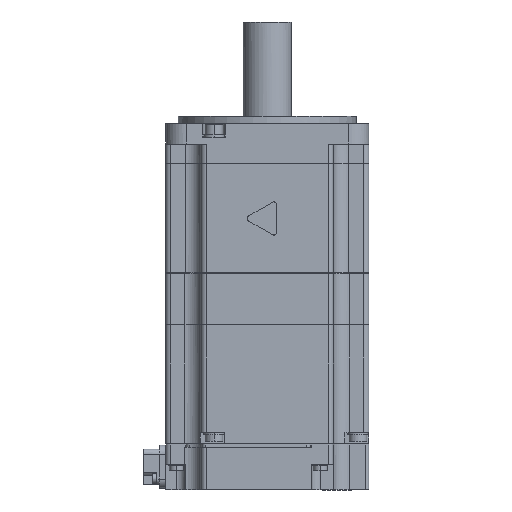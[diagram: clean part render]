
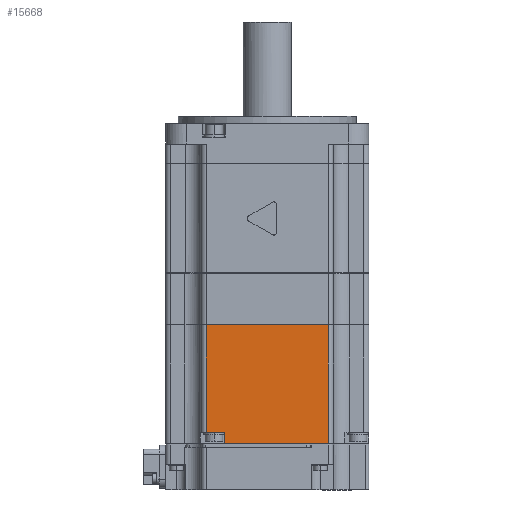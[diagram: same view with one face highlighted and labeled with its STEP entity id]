
A CAD part, left-side view. The second image highlights one B-rep face of the part: STEP entity #15668.
In plain terms, the highlighted planar face has unit normal (-1, 0, 0).
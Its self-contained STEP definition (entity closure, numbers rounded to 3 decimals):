
#6144 = CARTESIAN_POINT ( 'NONE',  ( -40., 16.6, -125.8 ) ) ;
#6145 = DIRECTION ( 'NONE',  ( 0., -1., 0. ) ) ;
#6146 = VECTOR ( 'NONE', #6145, 1000. ) ;
#6147 = CARTESIAN_POINT ( 'NONE',  ( -40., -24., -125.8 ) ) ;
#6148 = LINE ( 'NONE', #6147, #6146 ) ;
#6149 = CARTESIAN_POINT ( 'NONE',  ( -40., -24., -125.8 ) ) ;
#6478 = CARTESIAN_POINT ( 'NONE',  ( -40., 16.6, -121.5 ) ) ;
#6520 = CARTESIAN_POINT ( 'NONE',  ( -40., 24., -121.5 ) ) ;
#6521 = DIRECTION ( 'NONE',  ( 0., -1., 0. ) ) ;
#6522 = VECTOR ( 'NONE', #6521, 1000. ) ;
#6523 = CARTESIAN_POINT ( 'NONE',  ( -40., -24., -121.5 ) ) ;
#6524 = LINE ( 'NONE', #6523, #6522 ) ;
#6767 = DIRECTION ( 'NONE',  ( 0., 0., -1. ) ) ;
#6768 = DIRECTION ( 'NONE',  ( 1., 0., 0. ) ) ;
#6769 = CARTESIAN_POINT ( 'NONE',  ( -40., -24., -239.137 ) ) ;
#6770 = AXIS2_PLACEMENT_3D ( 'NONE', #6769, #6768, #6767 ) ;
#6771 = PLANE ( 'NONE',  #6770 ) ;
#6772 = FACE_OUTER_BOUND ( 'NONE', #15669, .T. ) ;
#6823 = DIRECTION ( 'NONE',  ( 0., 0., -1. ) ) ;
#6824 = VECTOR ( 'NONE', #6823, 1000. ) ;
#6825 = CARTESIAN_POINT ( 'NONE',  ( -40., 16.6, -121.5 ) ) ;
#6826 = LINE ( 'NONE', #6825, #6824 ) ;
#6864 = LINE ( 'NONE', #6913, #6912 ) ;
#6867 = CARTESIAN_POINT ( 'NONE',  ( -40., 24., -79.1 ) ) ;
#6868 = DIRECTION ( 'NONE',  ( 0., 1., 0. ) ) ;
#6869 = VECTOR ( 'NONE', #6868, 1000. ) ;
#6870 = CARTESIAN_POINT ( 'NONE',  ( -40., -24., -79.1 ) ) ;
#6871 = LINE ( 'NONE', #6870, #6869 ) ;
#6872 = CARTESIAN_POINT ( 'NONE',  ( -40., -24., -79.1 ) ) ;
#6873 = DIRECTION ( 'NONE',  ( 0., 0., 1. ) ) ;
#6874 = VECTOR ( 'NONE', #6873, 1000. ) ;
#6875 = CARTESIAN_POINT ( 'NONE',  ( -40., -24., -239.137 ) ) ;
#6876 = LINE ( 'NONE', #6875, #6874 ) ;
#6911 = DIRECTION ( 'NONE',  ( 0., 0., 1. ) ) ;
#6912 = VECTOR ( 'NONE', #6911, 1000. ) ;
#6913 = CARTESIAN_POINT ( 'NONE',  ( -40., 24., -239.137 ) ) ;
#15356 = VERTEX_POINT ( 'NONE', #6149 ) ;
#15360 = EDGE_CURVE ( 'NONE', #15361, #15356, #6148, .T. ) ;
#15361 = VERTEX_POINT ( 'NONE', #6144 ) ;
#15536 = VERTEX_POINT ( 'NONE', #6478 ) ;
#15541 = EDGE_CURVE ( 'NONE', #15542, #15536, #6524, .T. ) ;
#15542 = VERTEX_POINT ( 'NONE', #6520 ) ;
#15668 = ADVANCED_FACE ( 'NONE', ( #6772 ), #6771, .F. ) ;
#15669 = EDGE_LOOP ( 'NONE', ( #15671, #15708, #15710, #15715, #15721, #15726 ) ) ;
#15671 = ORIENTED_EDGE ( 'NONE', *, *, #15706, .T. ) ;
#15706 = EDGE_CURVE ( 'NONE', #15536, #15361, #6826, .T. ) ;
#15708 = ORIENTED_EDGE ( 'NONE', *, *, #15360, .T. ) ;
#15710 = ORIENTED_EDGE ( 'NONE', *, *, #15712, .T. ) ;
#15712 = EDGE_CURVE ( 'NONE', #15356, #15713, #6876, .T. ) ;
#15713 = VERTEX_POINT ( 'NONE', #6872 ) ;
#15715 = ORIENTED_EDGE ( 'NONE', *, *, #15717, .T. ) ;
#15717 = EDGE_CURVE ( 'NONE', #15713, #15718, #6871, .T. ) ;
#15718 = VERTEX_POINT ( 'NONE', #6867 ) ;
#15721 = ORIENTED_EDGE ( 'NONE', *, *, #15723, .F. ) ;
#15723 = EDGE_CURVE ( 'NONE', #15542, #15718, #6864, .T. ) ;
#15726 = ORIENTED_EDGE ( 'NONE', *, *, #15541, .T. ) ;
